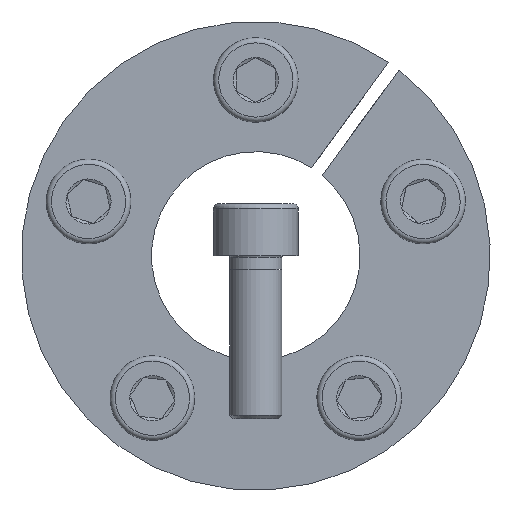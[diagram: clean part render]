
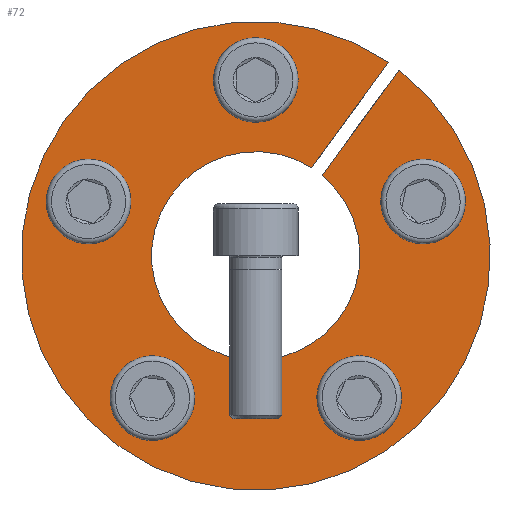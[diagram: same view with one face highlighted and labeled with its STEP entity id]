
A CAD part, front view. The second image highlights one B-rep face of the part: STEP entity #72.
In plain terms, the highlighted planar face has unit normal (0, -1, 0).
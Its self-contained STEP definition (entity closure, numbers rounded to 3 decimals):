
#72 = ADVANCED_FACE( '', ( #154, #155, #156, #157, #158, #159 ), #160, .F. );
#154 = FACE_OUTER_BOUND( '', #274, .T. );
#155 = FACE_BOUND( '', #275, .T. );
#156 = FACE_BOUND( '', #276, .T. );
#157 = FACE_BOUND( '', #277, .T. );
#158 = FACE_BOUND( '', #278, .T. );
#159 = FACE_BOUND( '', #279, .T. );
#160 = PLANE( '', #280 );
#274 = EDGE_LOOP( '', ( #443, #444, #445, #446 ) );
#275 = EDGE_LOOP( '', ( #447 ) );
#276 = EDGE_LOOP( '', ( #448 ) );
#277 = EDGE_LOOP( '', ( #449 ) );
#278 = EDGE_LOOP( '', ( #450 ) );
#279 = EDGE_LOOP( '', ( #451 ) );
#280 = AXIS2_PLACEMENT_3D( '', #452, #453, #454 );
#443 = ORIENTED_EDGE( '', *, *, #660, .T. );
#444 = ORIENTED_EDGE( '', *, *, #677, .T. );
#445 = ORIENTED_EDGE( '', *, *, #657, .T. );
#446 = ORIENTED_EDGE( '', *, *, #678, .F. );
#447 = ORIENTED_EDGE( '', *, *, #679, .F. );
#448 = ORIENTED_EDGE( '', *, *, #680, .F. );
#449 = ORIENTED_EDGE( '', *, *, #681, .F. );
#450 = ORIENTED_EDGE( '', *, *, #682, .F. );
#451 = ORIENTED_EDGE( '', *, *, #683, .F. );
#452 = CARTESIAN_POINT( '', ( 0., 0., 36. ) );
#453 = DIRECTION( '', ( 0., 1., 0. ) );
#454 = DIRECTION( '', ( 1., 0., 0. ) );
#657 = EDGE_CURVE( '', #783, #800, #802, .T. );
#660 = EDGE_CURVE( '', #807, #805, #808, .T. );
#677 = EDGE_CURVE( '', #805, #783, #836, .T. );
#678 = EDGE_CURVE( '', #807, #800, #837, .T. );
#679 = EDGE_CURVE( '', #838, #838, #839, .T. );
#680 = EDGE_CURVE( '', #840, #840, #841, .T. );
#681 = EDGE_CURVE( '', #842, #842, #843, .T. );
#682 = EDGE_CURVE( '', #844, #844, #845, .T. );
#683 = EDGE_CURVE( '', #846, #846, #847, .T. );
#783 = VERTEX_POINT( '', #1040 );
#800 = VERTEX_POINT( '', #1069 );
#802 = LINE( '', #1072, #1073 );
#805 = VERTEX_POINT( '', #1076 );
#807 = VERTEX_POINT( '', #1079 );
#808 = LINE( '', #1080, #1081 );
#836 = CIRCLE( '', #1121, 36. );
#837 = CIRCLE( '', #1122, 16. );
#838 = VERTEX_POINT( '', #1123 );
#839 = CIRCLE( '', #1124, 4.5 );
#840 = VERTEX_POINT( '', #1125 );
#841 = CIRCLE( '', #1126, 4.5 );
#842 = VERTEX_POINT( '', #1127 );
#843 = CIRCLE( '', #1128, 4.5 );
#844 = VERTEX_POINT( '', #1129 );
#845 = CIRCLE( '', #1130, 4.5 );
#846 = VERTEX_POINT( '', #1131 );
#847 = CIRCLE( '', #1132, 4.5 );
#1040 = CARTESIAN_POINT( '', ( 21.961, 0., 28.526 ) );
#1069 = CARTESIAN_POINT( '', ( 10.195, 0., 12.331 ) );
#1072 = CARTESIAN_POINT( '', ( 21.969, 0., 28.537 ) );
#1073 = VECTOR( '', #1222, 1000. );
#1076 = CARTESIAN_POINT( '', ( 20.343, 0., 29.701 ) );
#1079 = CARTESIAN_POINT( '', ( 8.577, 0., 13.507 ) );
#1080 = CARTESIAN_POINT( '', ( 8.577, 0., 13.507 ) );
#1081 = VECTOR( '', #1224, 1000. );
#1121 = AXIS2_PLACEMENT_3D( '', #1249, #1250, #1251 );
#1122 = AXIS2_PLACEMENT_3D( '', #1252, #1253, #1254 );
#1123 = CARTESIAN_POINT( '', ( 4.5, 0., 27. ) );
#1124 = AXIS2_PLACEMENT_3D( '', #1255, #1256, #1257 );
#1125 = CARTESIAN_POINT( '', ( 27.069, 0., 4.064 ) );
#1126 = AXIS2_PLACEMENT_3D( '', #1258, #1259, #1260 );
#1127 = CARTESIAN_POINT( '', ( 12.23, 0., -24.488 ) );
#1128 = AXIS2_PLACEMENT_3D( '', #1261, #1262, #1263 );
#1129 = CARTESIAN_POINT( '', ( -19.511, 0., -19.198 ) );
#1130 = AXIS2_PLACEMENT_3D( '', #1264, #1265, #1266 );
#1131 = CARTESIAN_POINT( '', ( -24.288, 0., 12.623 ) );
#1132 = AXIS2_PLACEMENT_3D( '', #1267, #1268, #1269 );
#1222 = DIRECTION( '', ( -0.588, 0., -0.809 ) );
#1224 = DIRECTION( '', ( 0.588, 0., 0.809 ) );
#1249 = CARTESIAN_POINT( '', ( 0., 0., 0. ) );
#1250 = DIRECTION( '', ( 0., -1., 0. ) );
#1251 = DIRECTION( '', ( 0., 0., -1. ) );
#1252 = CARTESIAN_POINT( '', ( 0., 0., 0. ) );
#1253 = DIRECTION( '', ( 0., -1., 0. ) );
#1254 = DIRECTION( '', ( 0., 0., -1. ) );
#1255 = CARTESIAN_POINT( '', ( 0., 0., 27. ) );
#1256 = DIRECTION( '', ( 0., -1., 0. ) );
#1257 = DIRECTION( '', ( 1., 0., 0. ) );
#1258 = CARTESIAN_POINT( '', ( 25.679, 0., 8.343 ) );
#1259 = DIRECTION( '', ( 0., -1., 0. ) );
#1260 = DIRECTION( '', ( 0.309, 0., -0.951 ) );
#1261 = CARTESIAN_POINT( '', ( 15.87, 0., -21.843 ) );
#1262 = DIRECTION( '', ( 0., -1., 0. ) );
#1263 = DIRECTION( '', ( -0.809, 0., -0.588 ) );
#1264 = CARTESIAN_POINT( '', ( -15.87, 0., -21.843 ) );
#1265 = DIRECTION( '', ( 0., -1., 0. ) );
#1266 = DIRECTION( '', ( -0.809, 0., 0.588 ) );
#1267 = CARTESIAN_POINT( '', ( -25.679, 0., 8.343 ) );
#1268 = DIRECTION( '', ( 0., -1., 0. ) );
#1269 = DIRECTION( '', ( 0.309, 0., 0.951 ) );
